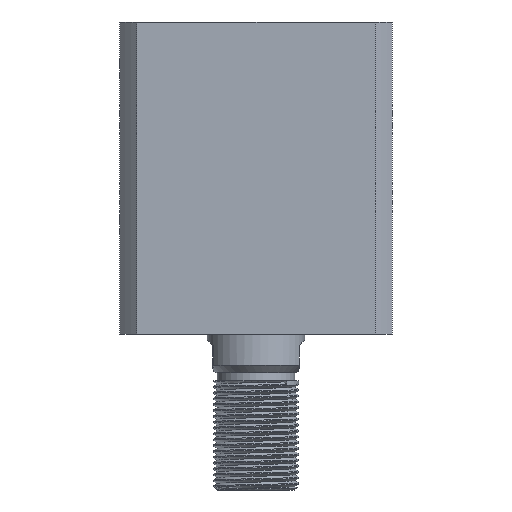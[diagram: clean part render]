
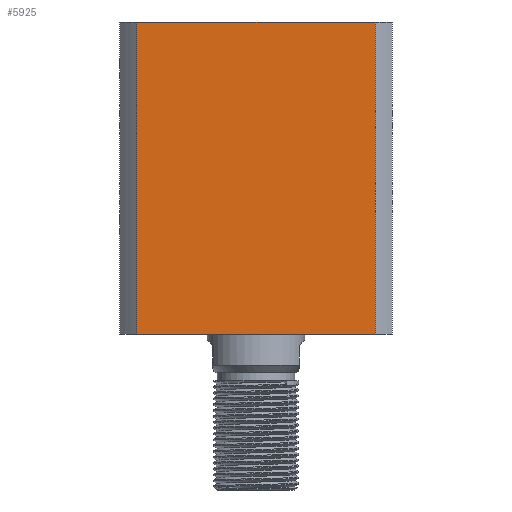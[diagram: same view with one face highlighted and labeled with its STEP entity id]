
A CAD part, front view. The second image highlights one B-rep face of the part: STEP entity #5925.
In plain terms, the highlighted planar face has unit normal (0, -1, 0).
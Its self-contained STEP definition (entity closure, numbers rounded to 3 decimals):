
#485 = VECTOR ( 'NONE', #13462, 1000. ) ;
#957 = CARTESIAN_POINT ( 'NONE',  ( -30.615, -35., 80. ) ) ;
#1537 = AXIS2_PLACEMENT_3D ( 'NONE', #8795, #3521, #10889 ) ;
#3291 = CARTESIAN_POINT ( 'NONE',  ( -30.615, -35., 0. ) ) ;
#3407 = EDGE_CURVE ( 'NONE', #10749, #7730, #3931, .T. ) ;
#3521 = DIRECTION ( 'NONE',  ( 0., 1., 0. ) ) ;
#3557 = EDGE_CURVE ( 'NONE', #11407, #4355, #8880, .T. ) ;
#3821 = LINE ( 'NONE', #12651, #7315 ) ;
#3931 = LINE ( 'NONE', #13319, #12337 ) ;
#3947 = DIRECTION ( 'NONE',  ( 1., 0., 0. ) ) ;
#4355 = VERTEX_POINT ( 'NONE', #7611 ) ;
#4481 = PLANE ( 'NONE',  #1537 ) ;
#4598 = ORIENTED_EDGE ( 'NONE', *, *, #3557, .T. ) ;
#4705 = ORIENTED_EDGE ( 'NONE', *, *, #3407, .F. ) ;
#4969 = LINE ( 'NONE', #12165, #13026 ) ;
#5794 = FACE_OUTER_BOUND ( 'NONE', #7731, .T. ) ;
#5925 = ADVANCED_FACE ( 'NONE', ( #5794 ), #4481, .F. ) ;
#6195 = CARTESIAN_POINT ( 'NONE',  ( 30.615, -35., 80. ) ) ;
#6282 = EDGE_CURVE ( 'NONE', #7730, #4355, #3821, .T. ) ;
#6671 = EDGE_CURVE ( 'NONE', #11407, #10749, #4969, .T. ) ;
#7315 = VECTOR ( 'NONE', #7367, 1000. ) ;
#7367 = DIRECTION ( 'NONE',  ( 0., 0., -1. ) ) ;
#7611 = CARTESIAN_POINT ( 'NONE',  ( 30.615, -35., 0. ) ) ;
#7730 = VERTEX_POINT ( 'NONE', #6195 ) ;
#7731 = EDGE_LOOP ( 'NONE', ( #9900, #4705, #8885, #4598 ) ) ;
#8795 = CARTESIAN_POINT ( 'NONE',  ( -35., -35., 80. ) ) ;
#8880 = LINE ( 'NONE', #13417, #485 ) ;
#8885 = ORIENTED_EDGE ( 'NONE', *, *, #6671, .F. ) ;
#9900 = ORIENTED_EDGE ( 'NONE', *, *, #6282, .F. ) ;
#10749 = VERTEX_POINT ( 'NONE', #957 ) ;
#10889 = DIRECTION ( 'NONE',  ( 0., 0., 1. ) ) ;
#11407 = VERTEX_POINT ( 'NONE', #3291 ) ;
#12034 = DIRECTION ( 'NONE',  ( 0., 0., 1. ) ) ;
#12165 = CARTESIAN_POINT ( 'NONE',  ( -30.615, -35., 300. ) ) ;
#12337 = VECTOR ( 'NONE', #3947, 1000. ) ;
#12651 = CARTESIAN_POINT ( 'NONE',  ( 30.615, -35., 300. ) ) ;
#13026 = VECTOR ( 'NONE', #12034, 1000. ) ;
#13319 = CARTESIAN_POINT ( 'NONE',  ( -35., -35., 80. ) ) ;
#13417 = CARTESIAN_POINT ( 'NONE',  ( -35., -35., 0. ) ) ;
#13462 = DIRECTION ( 'NONE',  ( 1., 0., 0. ) ) ;
